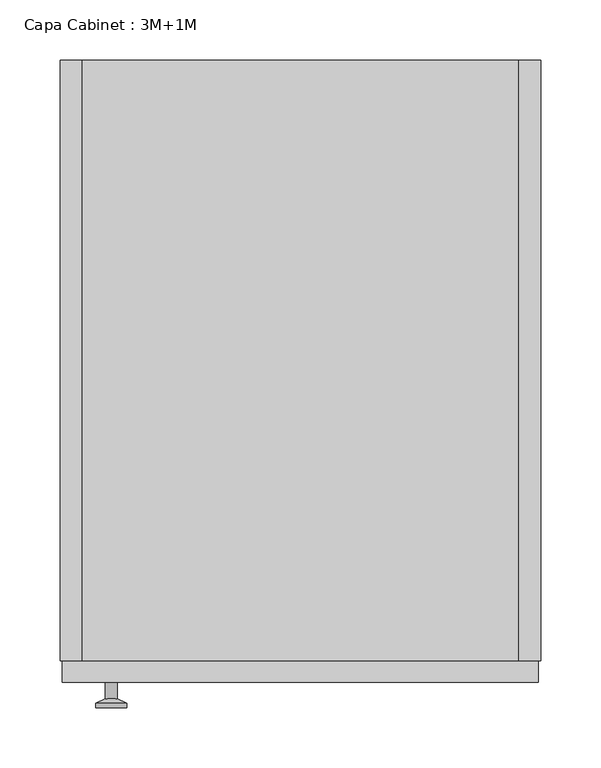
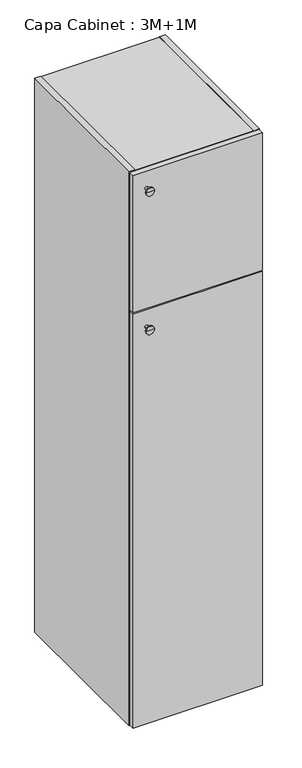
"""IFC4 building model written with IfcOpenShell, lengths in millimetres: furniture geometry, Capa Cabinet : 3M+1M."""

from ifc_helpers import new_model, si_unit, frame, origin, place, context, project, spatial, polyline, circle_curve, outline, extrude, faceted_brep, source, transform, mapped, element, save
from ifc_brep_helpers import plane_surface, cylinder_surface, revolved_surface, advanced_brep


def capa_cabinet_3m_1m_9186299e(model_context):
    return source(origin(), model_context, "Body", "SolidModel", [
        extrude(outline(polyline([(182.0, 0.0), (-182.0, 0.0), (-182.0, 490.0), (182.0, 490.0), (182.0, 0.0)])), frame((0.0, 0.0, 1337.0), z_axis=(0.0, 0.0, 1.0), x_axis=(1.0, 0.0, 0.0)), (0.0, 0.0, 1.0), 14.0),
        extrude(outline(polyline([(182.0, 0.0), (-182.0, 0.0), (-182.0, 490.0), (182.0, 490.0), (182.0, 0.0)])), frame((0.0, 0.0, 889.0), z_axis=(0.0, 0.0, 1.0), x_axis=(1.0, 0.0, 0.0)), (0.0, 0.0, 1.0), 14.0),
        extrude(outline(polyline([(182.0, 0.0), (-182.0, 0.0), (-182.0, 490.0), (182.0, 490.0), (182.0, 0.0)])), frame((0.0, 0.0, 441.0), z_axis=(0.0, 0.0, 1.0), x_axis=(1.0, 0.0, 0.0)), (0.0, 0.0, 1.0), 14.0),
        faceted_brep([(-182.0, 500.0, 1792.0), (-182.0, 500.0, 1791.0), (182.0, 500.0, 1791.0), (182.0, 500.0, 1792.0), (200.0, 500.0, 1792.0), (200.0, 500.0, 0.0), (182.0, 500.0, 0.0), (182.0, 500.0, 1.0), (-182.0, 500.0, 1.0), (-182.0, 500.0, 0.0), (-200.0, 500.0, 0.0), (-200.0, 500.0, 1792.0), (182.0, 490.0, 19.0), (182.0, 490.0, 1773.0), (-182.0, 490.0, 1773.0), (-182.0, 490.0, 19.0), (-182.0, 0.0, 1792.0), (-200.0, 0.0, 1792.0), (-200.0, 0.0, 0.0), (-182.0, 0.0, 0.0), (-182.0, 0.0, 1.0), (182.0, 0.0, 1.0), (182.0, 0.0, 0.0), (200.0, 0.0, 0.0), (200.0, 0.0, 1792.0), (182.0, 0.0, 1792.0), (182.0, 0.0, 1791.0), (-182.0, 0.0, 1791.0), (182.0, 0.0, 1773.0), (182.0, 0.0, 19.0), (-182.0, 0.0, 19.0), (-182.0, 0.0, 1773.0)], [[[0, 1, 2, 3, 4, 5, 6, 7, 8, 9, 10, 11]], [[12, 13, 14, 15]], [[16, 17, 18, 19, 20, 21, 22, 23, 24, 25, 26, 27], [28, 29, 30, 31]], [[17, 16, 0, 11]], [[18, 17, 11, 10]], [[23, 22, 6, 5]], [[24, 23, 5, 4]], [[19, 18, 10, 9]], [[20, 19, 9, 8]], [[21, 20, 8, 7]], [[22, 21, 7, 6]], [[25, 24, 4, 3]], [[26, 25, 3, 2]], [[27, 26, 2, 1]], [[16, 27, 1, 0]], [[29, 28, 13, 12]], [[30, 29, 12, 15]], [[31, 30, 15, 14]], [[28, 31, 14, 13]]]),
        extrude(outline(polyline([(198.0, -18.0), (-198.0, -18.0), (-198.0, 0.0), (198.0, 0.0), (198.0, -18.0)])), frame((0.0, 0.0, 1346.0), z_axis=(0.0, 0.0, 1.0), x_axis=(1.0, 0.0, 0.0)), (0.0, 0.0, 1.0), 444.0),
        advanced_brep(
        [(-157.2922597, -18.0, 1736.0), (-152.2922597, -18.0, 1736.0), (-162.2922597, -18.0, 1736.0), (-170.2922597, -38.997134, 1736.0), (-144.2922597, -38.997134, 1736.0), (-157.2922597, -38.997134, 1736.0), (-170.2922597, -35.5419417, 1736.0), (-144.2922597, -35.5419417, 1736.0), (-162.2922597, -31.8114804, 1736.0), (-152.2922597, -31.8114804, 1736.0)],
        [
            (0, 1),
            (1, 2, circle_curve(frame((-157.2922597, -18.0, 1736.0), z_axis=(0.0, 1.0, 0.0), x_axis=(1.0, 0.0, 0.0)), 5.0)),
            (2, 0),
            (2, 1, circle_curve(frame((-157.2922597, -18.0, 1736.0), z_axis=(0.0, 1.0, 0.0), x_axis=(1.0, 0.0, 0.0)), 5.0)),
            (3, 4, circle_curve(frame((-157.2922597, -38.997134, 1736.0), z_axis=(0.0, -1.0, 0.0), x_axis=(1.0, 0.0, 0.0)), 13.0)),
            (4, 5),
            (5, 3),
            (4, 3, circle_curve(frame((-157.2922597, -38.997134, 1736.0), z_axis=(0.0, -1.0, 0.0), x_axis=(1.0, 0.0, 0.0)), 13.0)),
            (6, 7, circle_curve(frame((-157.2922597, -35.5419417, 1736.0), z_axis=(0.0, -1.0, 0.0), x_axis=(1.0, 0.0, 0.0)), 13.0)),
            (7, 4),
            (3, 6),
            (7, 6, circle_curve(frame((-157.2922597, -35.5419417, 1736.0), z_axis=(0.0, -1.0, 0.0), x_axis=(1.0, 0.0, 0.0)), 13.0)),
            (8, 9, circle_curve(frame((-157.2922597, -31.8114804, 1736.0), z_axis=(0.0, -1.0, 0.0), x_axis=(1.0, 0.0, 0.0)), 5.0)),
            (9, 7),
            (6, 8),
            (9, 8, circle_curve(frame((-157.2922597, -31.8114804, 1736.0), z_axis=(0.0, -1.0, 0.0), x_axis=(1.0, 0.0, 0.0)), 5.0)),
            (1, 9),
            (8, 2),
        ],
        [
            plane_surface(frame((-157.2922597, -18.0, 1736.0), z_axis=(0.0, 1.0, 0.0), x_axis=(1.0, 0.0, 0.0))),
            plane_surface(frame((-157.2922597, -38.997134, 1736.0), z_axis=(0.0, -1.0, 0.0), x_axis=(1.0, 0.0, 0.0))),
            cylinder_surface(frame((-157.2922597, -38.997134, 1736.0), z_axis=(0.0, 1.0, 0.0), x_axis=(1.0, 0.0, 0.0)), 13.0),
            revolved_surface(polyline([(-144.2922597, -35.5419417, 1736.0), (-152.2922597, -31.8114804, 1736.0)]), (-157.2922597, -38.997134, 1736.0), (0.0, 1.0, 0.0)),
            cylinder_surface(frame((-157.2922597, -38.997134, 1736.0), z_axis=(0.0, 1.0, 0.0), x_axis=(1.0, 0.0, 0.0)), 5.0),
        ],
        [
            (0, [[1, 2, 3]]),
            (0, [[-3, 4, -1]]),
            (1, [[5, 6, 7]]),
            (1, [[8, -7, -6]]),
            (2, [[9, 10, -5, 11]]),
            (2, [[12, -11, -8, -10]]),
            (3, [[13, 14, -9, 15]]),
            (3, [[16, -15, -12, -14]]),
            (4, [[-2, 17, -13, 18]]),
            (4, [[-4, -18, -16, -17]]),
        ],
    ),
        extrude(outline(polyline([(198.0, -18.0), (-198.0, -18.0), (-198.0, 0.0), (198.0, 0.0), (198.0, -18.0)])), frame((0.0, 0.0, 2.0), z_axis=(0.0, 0.0, 1.0), x_axis=(1.0, 0.0, 0.0)), (0.0, 0.0, 1.0), 1340.0),
        advanced_brep(
        [(-157.2922597, -18.0, 1288.0), (-152.2922597, -18.0, 1288.0), (-162.2922597, -18.0, 1288.0), (-170.2922597, -38.997134, 1288.0), (-144.2922597, -38.997134, 1288.0), (-157.2922597, -38.997134, 1288.0), (-170.2922597, -35.5419417, 1288.0), (-144.2922597, -35.5419417, 1288.0), (-162.2922597, -31.8114804, 1288.0), (-152.2922597, -31.8114804, 1288.0)],
        [
            (0, 1),
            (1, 2, circle_curve(frame((-157.2922597, -18.0, 1288.0), z_axis=(0.0, 1.0, 0.0), x_axis=(1.0, 0.0, 0.0)), 5.0)),
            (2, 0),
            (2, 1, circle_curve(frame((-157.2922597, -18.0, 1288.0), z_axis=(0.0, 1.0, 0.0), x_axis=(1.0, 0.0, 0.0)), 5.0)),
            (3, 4, circle_curve(frame((-157.2922597, -38.997134, 1288.0), z_axis=(0.0, -1.0, 0.0), x_axis=(1.0, 0.0, 0.0)), 13.0)),
            (4, 5),
            (5, 3),
            (4, 3, circle_curve(frame((-157.2922597, -38.997134, 1288.0), z_axis=(0.0, -1.0, 0.0), x_axis=(1.0, 0.0, 0.0)), 13.0)),
            (6, 7, circle_curve(frame((-157.2922597, -35.5419417, 1288.0), z_axis=(0.0, -1.0, 0.0), x_axis=(1.0, 0.0, 0.0)), 13.0)),
            (7, 4),
            (3, 6),
            (7, 6, circle_curve(frame((-157.2922597, -35.5419417, 1288.0), z_axis=(0.0, -1.0, 0.0), x_axis=(1.0, 0.0, 0.0)), 13.0)),
            (8, 9, circle_curve(frame((-157.2922597, -31.8114804, 1288.0), z_axis=(0.0, -1.0, 0.0), x_axis=(1.0, 0.0, 0.0)), 5.0)),
            (9, 7),
            (6, 8),
            (9, 8, circle_curve(frame((-157.2922597, -31.8114804, 1288.0), z_axis=(0.0, -1.0, 0.0), x_axis=(1.0, 0.0, 0.0)), 5.0)),
            (1, 9),
            (8, 2),
        ],
        [
            plane_surface(frame((-157.2922597, -18.0, 1288.0), z_axis=(0.0, 1.0, 0.0), x_axis=(1.0, 0.0, 0.0))),
            plane_surface(frame((-157.2922597, -38.997134, 1288.0), z_axis=(0.0, -1.0, 0.0), x_axis=(1.0, 0.0, 0.0))),
            cylinder_surface(frame((-157.2922597, -38.997134, 1288.0), z_axis=(0.0, 1.0, 0.0), x_axis=(1.0, 0.0, 0.0)), 13.0),
            revolved_surface(polyline([(-144.2922597, -35.5419417, 1288.0), (-152.2922597, -31.8114804, 1288.0)]), (-157.2922597, -38.997134, 1288.0), (0.0, 1.0, 0.0)),
            cylinder_surface(frame((-157.2922597, -38.997134, 1288.0), z_axis=(0.0, 1.0, 0.0), x_axis=(1.0, 0.0, 0.0)), 5.0),
        ],
        [
            (0, [[1, 2, 3]]),
            (0, [[-3, 4, -1]]),
            (1, [[5, 6, 7]]),
            (1, [[8, -7, -6]]),
            (2, [[9, 10, -5, 11]]),
            (2, [[12, -11, -8, -10]]),
            (3, [[13, 14, -9, 15]]),
            (3, [[16, -15, -12, -14]]),
            (4, [[-2, 17, -13, 18]]),
            (4, [[-4, -18, -16, -17]]),
        ],
    ),
    ])


if __name__ == "__main__":
    model = new_model("IFC4")
    model_context = context("Model", 3, world=origin())
    ifc_project = project(units=[si_unit("LENGTHUNIT", "METRE", prefix="MILLI")], contexts=[model_context])
    site = spatial("IfcSite", under=ifc_project)
    building = spatial("IfcBuilding", under=site)
    placement = place(None, origin())
    capa_cabinet_3m_1m_shape = capa_cabinet_3m_1m_9186299e(model_context)
    element("IfcFurniture", 1, ObjectType="Capa Cabinet : 3M+1M", at=placement, inside=building, context=model_context, shape_type="MappedRepresentation", body=[
        mapped(capa_cabinet_3m_1m_shape, transform((0.0, 0.0, 0.0), x_axis=(1.0, 0.0, 0.0), y_axis=(0.0, 1.0, 0.0), z_axis=(0.0, 0.0, 1.0))),
    ])
    save(model, "model.ifc")
